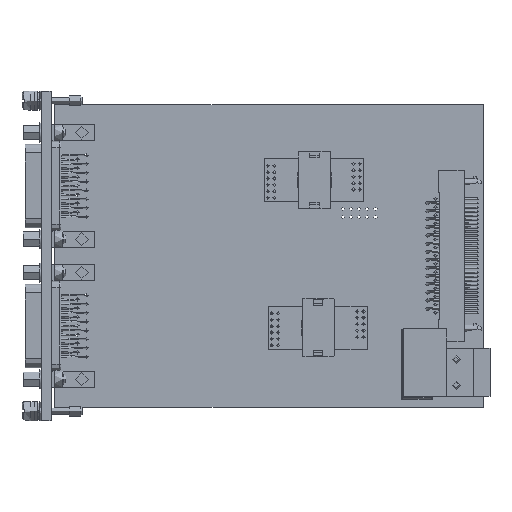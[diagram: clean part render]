
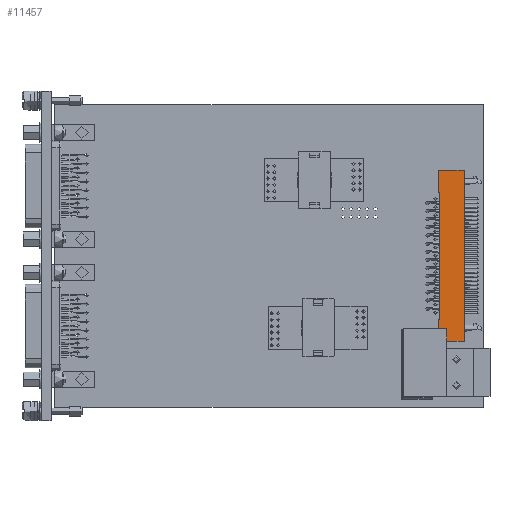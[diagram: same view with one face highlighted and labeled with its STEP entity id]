
A CAD part, top view. The second image highlights one B-rep face of the part: STEP entity #11457.
In plain terms, the highlighted planar face has unit normal (0, 0, 1).
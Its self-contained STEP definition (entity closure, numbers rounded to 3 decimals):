
#11457=ADVANCED_FACE('',(#40513),#40515,.F.);
#40513=FACE_BOUND('',#40514,.T.);
#40514=EDGE_LOOP('',(#62481,#62482,#62483,#62484,#62485,#62486,#62487,#62488));
#40515=PLANE('',#40516);
#40516=AXIS2_PLACEMENT_3D('',#40517,#40518,#40519);
#40517=CARTESIAN_POINT('',(94.02,25.5,18.363));
#40518=DIRECTION('',(0.,0.,-1.));
#40519=DIRECTION('',(-1.,0.,0.));
#62481=ORIENTED_EDGE('',*,*,#75172,.T.);
#62482=ORIENTED_EDGE('',*,*,#75215,.T.);
#62483=ORIENTED_EDGE('',*,*,#75213,.T.);
#62484=ORIENTED_EDGE('',*,*,#75211,.T.);
#62485=ORIENTED_EDGE('',*,*,#75209,.T.);
#62486=ORIENTED_EDGE('',*,*,#75178,.T.);
#62487=ORIENTED_EDGE('',*,*,#75176,.T.);
#62488=ORIENTED_EDGE('',*,*,#75174,.T.);
#75172=EDGE_CURVE('',#84847,#84845,#84848,.T.);
#75174=EDGE_CURVE('',#84850,#84847,#84851,.T.);
#75176=EDGE_CURVE('',#84853,#84850,#84854,.T.);
#75178=EDGE_CURVE('',#84856,#84853,#84857,.T.);
#75209=EDGE_CURVE('',#84917,#84856,#84918,.T.);
#75211=EDGE_CURVE('',#84920,#84917,#84921,.T.);
#75213=EDGE_CURVE('',#84923,#84920,#84924,.T.);
#75215=EDGE_CURVE('',#84845,#84923,#84926,.T.);
#84845=VERTEX_POINT('',#104159);
#84847=VERTEX_POINT('',#104163);
#84848=LINE('',#104164,#104165);
#84850=VERTEX_POINT('',#104170);
#84851=LINE('',#104171,#104172);
#84853=VERTEX_POINT('',#104177);
#84854=LINE('',#104178,#104179);
#84856=VERTEX_POINT('',#104184);
#84857=LINE('',#104185,#104186);
#84917=VERTEX_POINT('',#104336);
#84918=LINE('',#104337,#104338);
#84920=VERTEX_POINT('',#104343);
#84921=LINE('',#104344,#104345);
#84923=VERTEX_POINT('',#104350);
#84924=LINE('',#104351,#104352);
#84926=LINE('',#104357,#104358);
#104159=CARTESIAN_POINT('',(101.92,25.5,18.363));
#104163=CARTESIAN_POINT('',(94.02,25.5,18.363));
#104164=CARTESIAN_POINT('',(94.02,25.5,18.363));
#104165=VECTOR('',#104166,1.);
#104166=DIRECTION('',(1.,0.,0.));
#104170=CARTESIAN_POINT('',(94.02,32.5,18.363));
#104171=CARTESIAN_POINT('',(94.02,32.5,18.363));
#104172=VECTOR('',#104173,1.);
#104173=DIRECTION('',(0.,-1.,0.));
#104177=CARTESIAN_POINT('',(94.32,32.5,18.363));
#104178=CARTESIAN_POINT('',(94.32,32.5,18.363));
#104179=VECTOR('',#104180,1.);
#104180=DIRECTION('',(-1.,0.,0.));
#104184=CARTESIAN_POINT('',(94.32,72.,18.363));
#104185=CARTESIAN_POINT('',(94.32,72.,18.363));
#104186=VECTOR('',#104187,1.);
#104187=DIRECTION('',(0.,-1.,0.));
#104336=CARTESIAN_POINT('',(94.02,72.,18.363));
#104337=CARTESIAN_POINT('',(94.02,72.,18.363));
#104338=VECTOR('',#104339,1.);
#104339=DIRECTION('',(1.,0.,0.));
#104343=CARTESIAN_POINT('',(94.02,79.,18.363));
#104344=CARTESIAN_POINT('',(94.02,79.,18.363));
#104345=VECTOR('',#104346,1.);
#104346=DIRECTION('',(0.,-1.,0.));
#104350=CARTESIAN_POINT('',(101.92,79.,18.363));
#104351=CARTESIAN_POINT('',(101.92,79.,18.363));
#104352=VECTOR('',#104353,1.);
#104353=DIRECTION('',(-1.,0.,0.));
#104357=CARTESIAN_POINT('',(101.92,25.5,18.363));
#104358=VECTOR('',#104359,1.);
#104359=DIRECTION('',(0.,1.,0.));
